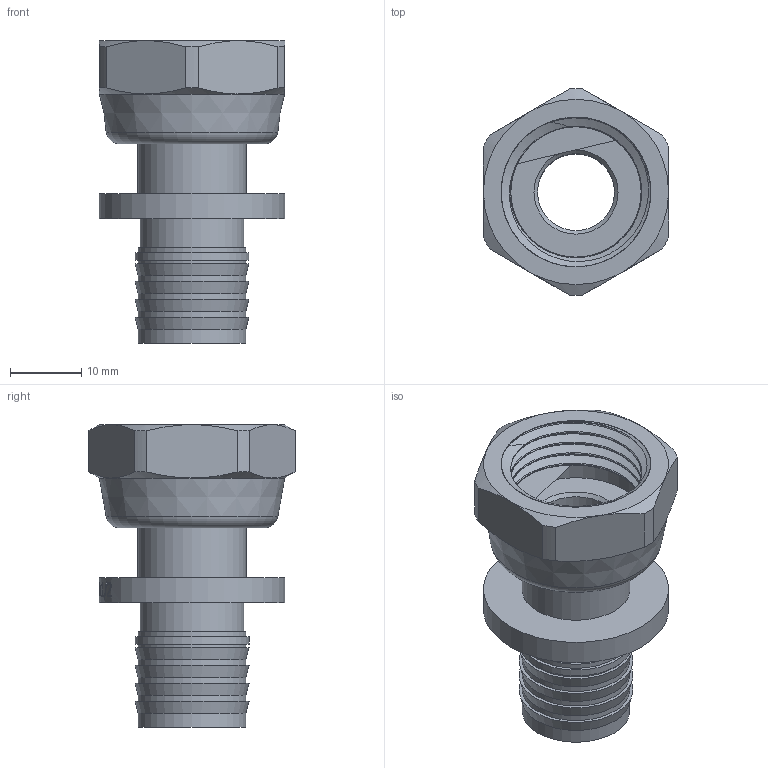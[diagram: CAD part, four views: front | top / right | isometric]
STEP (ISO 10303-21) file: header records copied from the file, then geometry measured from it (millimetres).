
FILE_DESCRIPTION(/* description */ (''),/* implementation_level */ '2;1');
FILE_NAME(/* name */ 'C:\Users\Doom\Desktop\Фадотех\Натяжка\SFM33_NEW 20X0.5 21.08.2020\SFM33_NEW 20X0.5 21.08.2020.stp',/* time_stamp */ '2022-07-25T18:00:30+03:00',/* author */ ('Doom'),/* organization */ (''),/* preprocessor_version */ 'ST-DEVELOPER v18',/* originating_system */ 'Autodesk Inventor 2020',/* authorisation */ '');
FILE_SCHEMA (('AUTOMOTIVE_DESIGN { 1 0 10303 214 3 1 1 }'));
Length unit declared in the file: millimetre
Products named in the file (3): SFM31 16x1_2 06.08.2020; 20 Model 18.12.2019; SFM31_NEW_2
Assembly tree (2 placements, depth 2):
  SFM31 16x1_2 06.08.2020
    20 Model 18.12.2019
    SFM31_NEW_2
Bounding box: 26 x 29 x 42.5 mm (x, y, z)
Volume: 7846.4 mm3; surface area: 8090 mm2
Topology: 3 solids, 3 shells, 168 faces, 459 edges, 316 vertices
Faces by surface type: plane 60, bspline 60, cylinder 35, cone 11, torus 2
Full cylindrical faces by diameter (mm): 10.8 x1, 14.5 x1, 15.1 x6, 15.2 x1, 16 x1, 18.31 x4, 18.7 x1, 21 x2, 26 x1
Entity records: 9198 total; most frequent: CARTESIAN_POINT 5136, ORIENTED_EDGE 914, DIRECTION 678, EDGE_CURVE 457, VERTEX_POINT 315, AXIS2_PLACEMENT_3D 257, EDGE_LOOP 194, FACE_OUTER_BOUND 168
